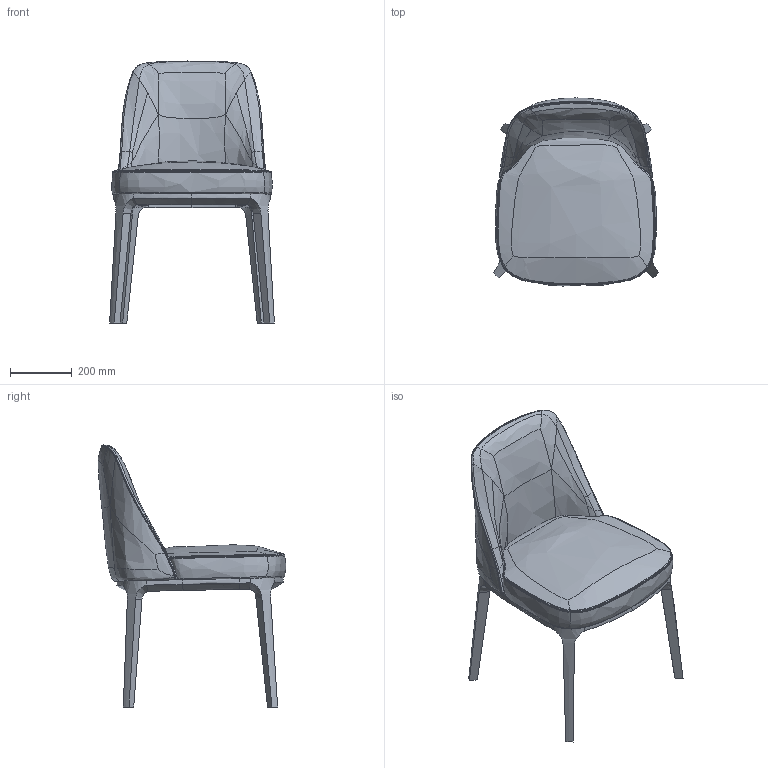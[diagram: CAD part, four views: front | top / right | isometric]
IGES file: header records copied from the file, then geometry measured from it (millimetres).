
Global section: file name: CI-A02C; native system: Autodesk Inventor 2022; preprocessor: unknown; author: simone; date: 20211124.132058; units: millimetre
Bounding box: 534.65 x 609.79 x 850.04 mm (x, y, z)
Volume: 42356936.4 mm3; surface area: 1605751.5 mm2
Topology: 5 solids, 5 shells, 344 faces, 811 edges, 475 vertices
Faces by surface type: bspline 344
